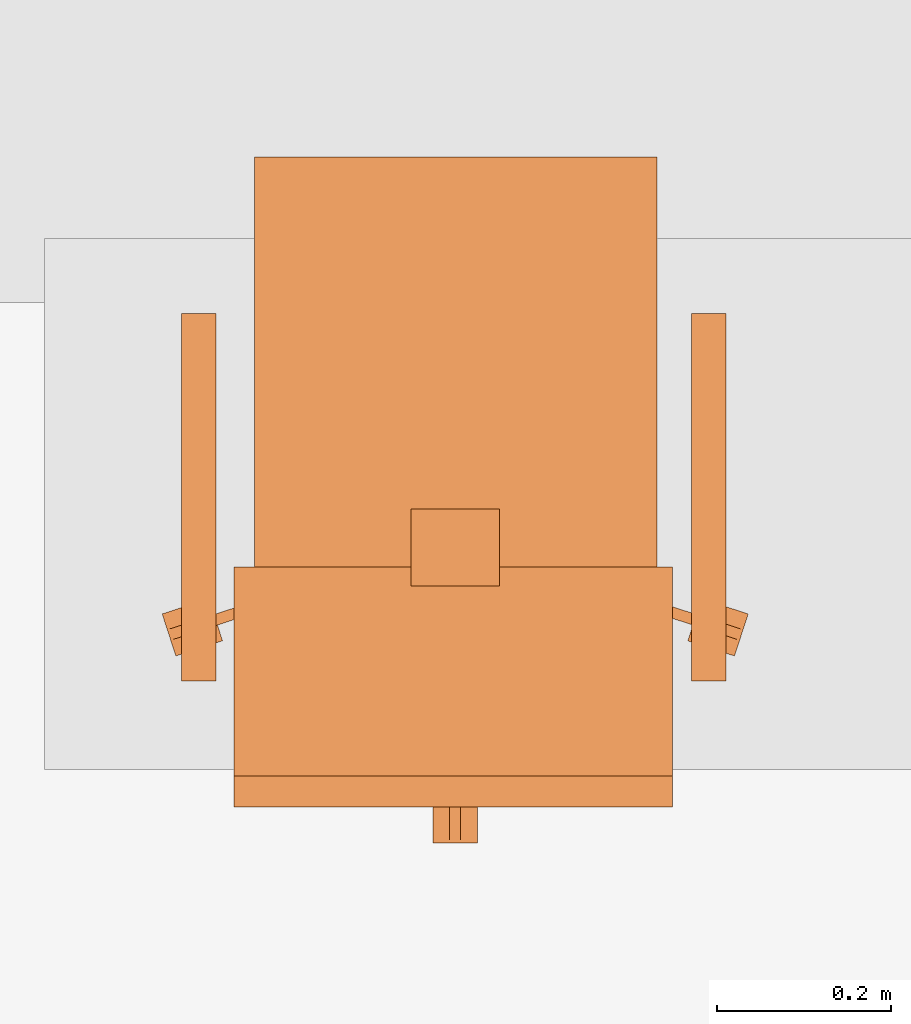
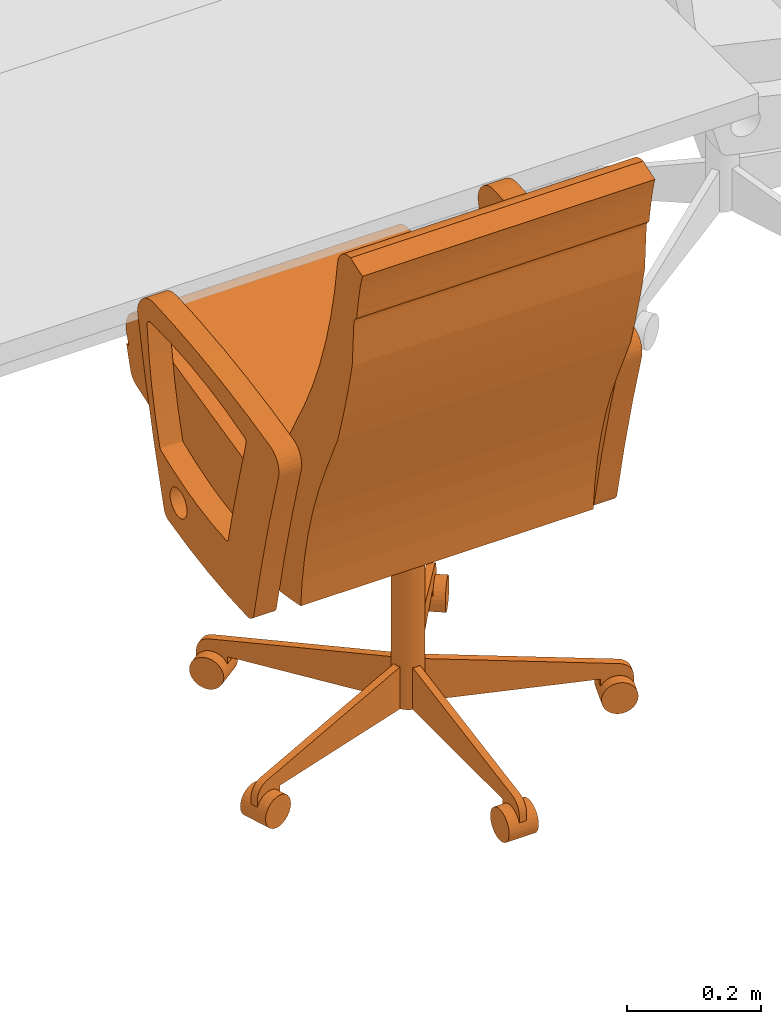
# One storey, part 37 of 142: 1 proxy.
"""IFC2X3 building model written with IfcOpenShell, lengths in feet."""

from ifc_helpers import new_model, entity, si_unit, converted_unit, derived_unit, direction, frame, frame_2d, origin, place, context, subcontext, project, spatial, polyline, circle_curve, parameter, trimmed, segment, composite_curve, circle, outline, extrude, source, transform, mapped, type_object, type_shapes, element, save


model = new_model("IFC2X3")

# Units and contexts
model_context = context("Model", 3, precision=0.0001, world=origin(), true_north=direction((6.12303176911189e-17, 1.0)))
body_context = subcontext(model_context, "Body", "Model", "MODEL_VIEW")
ifc_project = project(units=[converted_unit("LENGTHUNIT", "FOOT", entity("IfcRatioMeasure", 0.3048), si_unit("LENGTHUNIT", "METRE"), dimensions=[1, 0, 0, 0, 0, 0, 0]), converted_unit("AREAUNIT", "SQUARE FOOT", entity("IfcRatioMeasure", 0.09290304), si_unit("AREAUNIT", "SQUARE_METRE"), dimensions=[2, 0, 0, 0, 0, 0, 0]), converted_unit("VOLUMEUNIT", "CUBIC FOOT", entity("IfcRatioMeasure", 0.028316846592), si_unit("VOLUMEUNIT", "CUBIC_METRE"), dimensions=[3, 0, 0, 0, 0, 0, 0]), converted_unit("PLANEANGLEUNIT", "DEGREE", entity("IfcRatioMeasure", 0.0174532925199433), si_unit("PLANEANGLEUNIT", "RADIAN"), dimensions=[0, 0, 0, 0, 0, 0, 0]), si_unit("MASSUNIT", "GRAM", prefix="KILO"), derived_unit("MASSDENSITYUNIT", [(si_unit("MASSUNIT", "GRAM", prefix="KILO"), 1), (si_unit("LENGTHUNIT", "METRE"), -3)]), si_unit("TIMEUNIT", "SECOND"), si_unit("FREQUENCYUNIT", "HERTZ"), si_unit("THERMODYNAMICTEMPERATUREUNIT", "DEGREE_CELSIUS"), derived_unit("THERMALTRANSMITTANCEUNIT", [(si_unit("MASSUNIT", "GRAM", prefix="KILO"), 1), (si_unit("THERMODYNAMICTEMPERATUREUNIT", "KELVIN"), -1), (si_unit("TIMEUNIT", "SECOND"), -3)]), derived_unit("VOLUMETRICFLOWRATEUNIT", [(si_unit("LENGTHUNIT", "METRE"), 3), (si_unit("TIMEUNIT", "SECOND"), -1)]), si_unit("ELECTRICCURRENTUNIT", "AMPERE"), si_unit("ELECTRICVOLTAGEUNIT", "VOLT"), si_unit("POWERUNIT", "WATT"), si_unit("FORCEUNIT", "NEWTON"), si_unit("ILLUMINANCEUNIT", "LUX"), si_unit("LUMINOUSFLUXUNIT", "LUMEN"), si_unit("LUMINOUSINTENSITYUNIT", "CANDELA"), derived_unit("USERDEFINED", [(si_unit("MASSUNIT", "GRAM", prefix="KILO"), -1), (si_unit("LENGTHUNIT", "METRE"), -2), (si_unit("TIMEUNIT", "SECOND"), 3), (si_unit("LUMINOUSFLUXUNIT", "LUMEN"), 1)]), derived_unit("LINEARVELOCITYUNIT", [(si_unit("LENGTHUNIT", "METRE"), 1), (si_unit("TIMEUNIT", "SECOND"), -1)]), si_unit("PRESSUREUNIT", "PASCAL"), derived_unit("USERDEFINED", [(si_unit("LENGTHUNIT", "METRE"), -2), (si_unit("MASSUNIT", "GRAM", prefix="KILO"), 1), (si_unit("TIMEUNIT", "SECOND"), -2)])], contexts=[model_context])

# Site, building, storey, space
site_placement = place(None, origin())
site = spatial("IfcSite", under=ifc_project, at=site_placement, Name="Default", CompositionType="ELEMENT")
building_placement = place(site_placement, origin())
building = spatial("IfcBuilding", under=site, at=building_placement, Name="OUTPATIENT / PACT CLINIC (Ch. 265)", CompositionType="ELEMENT")
storey_placement = place(building_placement, origin())
storey = spatial("IfcBuildingStorey", under=building, at=storey_placement, Name="LEVEL 1", CompositionType="ELEMENT", Elevation=0.0)
space_placement = place(storey_placement, origin())
space = spatial("IfcSpace", under=storey, at=space_placement, Name="WRTM1", CompositionType="ELEMENT", InteriorOrExteriorSpace="INTERNAL")

# Proxy
building_element_proxy_type = type_object("IfcBuildingElementProxyType", Name="F0220 - Chair, Conference", PredefinedType="NOTDEFINED")
shared_shape = source(origin(), body_context, "Body", "SweptSolid", [
    extrude(outline(composite_curve([segment(trimmed(circle_curve(frame_2d((-0.548378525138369, -0.54006253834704), x_axis=(1.0, 0.0)), 0.156713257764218), [parameter(187.136710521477)], [parameter(273.006994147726)], True, "PARAMETER"), True, "CONTINUOUS"), segment(trimmed(circle_curve(frame_2d((-0.866637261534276, 5.51852508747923), x_axis=(1.0, 0.0)), 6.22365422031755), [parameter(273.006994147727)], [parameter(283.63517906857)], True, "PARAMETER"), True, "CONTINUOUS"), segment(trimmed(circle_curve(frame_2d((0.575436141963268, -0.426318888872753), x_axis=(1.0, 0.0)), 0.106404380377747), [parameter(283.63517906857)], [parameter(16.3648209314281)], True, "PARAMETER"), True, "CONTINUOUS"), segment(trimmed(circle_curve(frame_2d((12.2871693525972, 3.01281927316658), x_axis=(1.0, 0.0)), 12.0998385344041), [parameter(191.635179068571)], [parameter(196.364820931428)], True, "PARAMETER"), False, "CONTINUOUS"), segment(trimmed(circle_curve(frame_2d((0.374732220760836, 0.559015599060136), x_axis=(1.0, 0.0)), 0.0627049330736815), [parameter(12.4480385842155)], [parameter(91.6711811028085)], True, "PARAMETER"), True, "CONTINUOUS"), segment(trimmed(circle_curve(frame_2d((0.478250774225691, -2.98907031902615), x_axis=(1.0, 0.0)), 3.61230065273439), [parameter(91.6711811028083)], [parameter(104.057744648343)], True, "PARAMETER"), True, "CONTINUOUS"), segment(trimmed(circle_curve(frame_2d((-0.383994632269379, 0.454418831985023), x_axis=(1.0, 0.0)), 0.0625), [parameter(104.057744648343)], [parameter(162.816884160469)], True, "PARAMETER"), True, "CONTINUOUS"), segment(trimmed(circle_curve(frame_2d((9.14984606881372, -2.49371945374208), x_axis=(1.0, 0.0)), 10.0417603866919), [parameter(162.816884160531)], [parameter(168.894605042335)], True, "PARAMETER"), True, "CONTINUOUS")], self_intersect=False), holes=[composite_curve([segment(trimmed(circle_curve(frame_2d((12.2923776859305, 3.01281927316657), x_axis=(1.0, 0.0)), 12.4123385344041), [parameter(192.741870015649)], [parameter(195.991286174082)], True, "PARAMETER"), True, "CONTINUOUS"), segment(trimmed(circle_curve(frame_2d((0.340324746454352, -0.412409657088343), x_axis=(1.0, 0.0)), 0.0208333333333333), [parameter(286.604073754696)], [parameter(15.9912861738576)], True, "PARAMETER"), False, "CONTINUOUS"), segment(trimmed(circle_curve(frame_2d((-0.540439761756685, 2.54128905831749), x_axis=(1.0, 0.0)), 3.1030536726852), [parameter(269.369775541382)], [parameter(286.604073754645)], True, "PARAMETER"), False, "CONTINUOUS"), segment(trimmed(circle_curve(frame_2d((-0.574176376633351, -0.525693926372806), x_axis=(1.0, 0.0)), 0.0358851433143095), [parameter(161.887842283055)], [parameter(269.369775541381)], True, "PARAMETER"), False, "CONTINUOUS"), segment(trimmed(circle_curve(frame_2d((2.4385579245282, -0.768421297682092), x_axis=(1.0, 0.0)), 3.05740066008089), [parameter(162.893812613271)], [parameter(175.236734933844)], True, "PARAMETER"), False, "CONTINUOUS"), segment(trimmed(circle_curve(frame_2d((-0.469775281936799, 0.128159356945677), x_axis=(1.0, 0.0)), 0.0140798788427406), [parameter(113.070266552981)], [parameter(168.803309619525)], True, "PARAMETER"), False, "CONTINUOUS"), segment(trimmed(circle_curve(frame_2d((0.277251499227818, -1.62574197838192), x_axis=(1.0, 0.0)), 1.92044262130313), [parameter(93.3759131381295)], [parameter(113.070266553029)], True, "PARAMETER"), False, "CONTINUOUS"), segment(trimmed(circle_curve(frame_2d((0.165389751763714, 0.270570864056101), x_axis=(1.0, 0.0)), 0.0208333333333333), [parameter(12.7418700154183)], [parameter(93.375913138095)], True, "PARAMETER"), False, "CONTINUOUS")], self_intersect=False), composite_curve([segment(trimmed(circle_curve(frame_2d((-0.300575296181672, 0.351220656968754), x_axis=(1.0, 0.0)), 0.0833333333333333), [parameter(180.0)], [parameter(0.0)], True, "PARAMETER"), False, "CONTINUOUS"), segment(trimmed(circle_curve(frame_2d((-0.300575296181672, 0.351220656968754), x_axis=(1.0, 0.0)), 0.0833333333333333), [parameter(3.05333249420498e-13)], [parameter(180.0)], True, "PARAMETER"), False, "CONTINUOUS")], self_intersect=False)]), frame((-1.03331274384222, -0.0541567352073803, 1.78474215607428), z_axis=(1.0, 0.0, 0.0), x_axis=(0.0, -1.0, 0.0)), (0.0, 0.0, 1.0), 0.128812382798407),
    extrude(outline(composite_curve([segment(trimmed(circle_curve(frame_2d((-0.548378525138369, -0.54006253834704), x_axis=(1.0, 0.0)), 0.156713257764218), [parameter(187.136710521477)], [parameter(273.006994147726)], True, "PARAMETER"), True, "CONTINUOUS"), segment(trimmed(circle_curve(frame_2d((-0.866637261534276, 5.51852508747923), x_axis=(1.0, 0.0)), 6.22365422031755), [parameter(273.006994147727)], [parameter(283.63517906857)], True, "PARAMETER"), True, "CONTINUOUS"), segment(trimmed(circle_curve(frame_2d((0.575436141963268, -0.426318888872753), x_axis=(1.0, 0.0)), 0.106404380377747), [parameter(283.63517906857)], [parameter(16.3648209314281)], True, "PARAMETER"), True, "CONTINUOUS"), segment(trimmed(circle_curve(frame_2d((12.2871693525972, 3.01281927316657), x_axis=(1.0, 0.0)), 12.0998385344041), [parameter(191.635179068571)], [parameter(196.364820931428)], True, "PARAMETER"), False, "CONTINUOUS"), segment(trimmed(circle_curve(frame_2d((0.374732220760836, 0.559015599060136), x_axis=(1.0, 0.0)), 0.0627049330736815), [parameter(12.4480385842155)], [parameter(91.6711811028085)], True, "PARAMETER"), True, "CONTINUOUS"), segment(trimmed(circle_curve(frame_2d((0.478250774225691, -2.98907031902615), x_axis=(1.0, 0.0)), 3.61230065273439), [parameter(91.6711811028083)], [parameter(104.057744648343)], True, "PARAMETER"), True, "CONTINUOUS"), segment(trimmed(circle_curve(frame_2d((-0.383994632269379, 0.454418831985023), x_axis=(1.0, 0.0)), 0.0625), [parameter(104.057744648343)], [parameter(162.816884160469)], True, "PARAMETER"), True, "CONTINUOUS"), segment(trimmed(circle_curve(frame_2d((9.14984606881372, -2.49371945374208), x_axis=(1.0, 0.0)), 10.0417603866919), [parameter(162.816884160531)], [parameter(168.894605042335)], True, "PARAMETER"), True, "CONTINUOUS")], self_intersect=False), holes=[composite_curve([segment(trimmed(circle_curve(frame_2d((12.2923776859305, 3.01281927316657), x_axis=(1.0, 0.0)), 12.4123385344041), [parameter(192.741870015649)], [parameter(195.991286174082)], True, "PARAMETER"), True, "CONTINUOUS"), segment(trimmed(circle_curve(frame_2d((0.340324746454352, -0.412409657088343), x_axis=(1.0, 0.0)), 0.0208333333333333), [parameter(286.604073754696)], [parameter(15.9912861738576)], True, "PARAMETER"), False, "CONTINUOUS"), segment(trimmed(circle_curve(frame_2d((-0.540439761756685, 2.54128905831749), x_axis=(1.0, 0.0)), 3.1030536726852), [parameter(269.369775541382)], [parameter(286.604073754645)], True, "PARAMETER"), False, "CONTINUOUS"), segment(trimmed(circle_curve(frame_2d((-0.574176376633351, -0.525693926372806), x_axis=(1.0, 0.0)), 0.0358851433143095), [parameter(161.887842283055)], [parameter(269.369775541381)], True, "PARAMETER"), False, "CONTINUOUS"), segment(trimmed(circle_curve(frame_2d((2.4385579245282, -0.768421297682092), x_axis=(1.0, 0.0)), 3.05740066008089), [parameter(162.893812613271)], [parameter(175.236734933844)], True, "PARAMETER"), False, "CONTINUOUS"), segment(trimmed(circle_curve(frame_2d((-0.469775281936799, 0.128159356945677), x_axis=(1.0, 0.0)), 0.0140798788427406), [parameter(113.070266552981)], [parameter(168.803309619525)], True, "PARAMETER"), False, "CONTINUOUS"), segment(trimmed(circle_curve(frame_2d((0.277251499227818, -1.62574197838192), x_axis=(1.0, 0.0)), 1.92044262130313), [parameter(93.3759131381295)], [parameter(113.070266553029)], True, "PARAMETER"), False, "CONTINUOUS"), segment(trimmed(circle_curve(frame_2d((0.165389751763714, 0.270570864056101), x_axis=(1.0, 0.0)), 0.0208333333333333), [parameter(12.7418700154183)], [parameter(93.375913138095)], True, "PARAMETER"), False, "CONTINUOUS")], self_intersect=False), composite_curve([segment(trimmed(circle_curve(frame_2d((-0.300575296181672, 0.351220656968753), x_axis=(1.0, 0.0)), 0.0833333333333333), [parameter(180.0)], [parameter(0.0)], True, "PARAMETER"), False, "CONTINUOUS"), segment(trimmed(circle_curve(frame_2d((-0.300575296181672, 0.351220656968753), x_axis=(1.0, 0.0)), 0.0833333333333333), [parameter(3.05333249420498e-13)], [parameter(180.0)], True, "PARAMETER"), False, "CONTINUOUS")], self_intersect=False)]), frame((0.889516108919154, -0.0541567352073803, 1.78474215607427), z_axis=(1.0, 0.0, 0.0), x_axis=(0.0, -1.0, 0.0)), (0.0, 0.0, 1.0), 0.128812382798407),
    extrude(outline(composite_curve([segment(trimmed(circle_curve(frame_2d((0.770862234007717, -1.97589519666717), x_axis=(1.0, 0.0)), 2.24250574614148), [parameter(83.7744840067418)], [parameter(104.587152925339)], True, "PARAMETER"), True, "CONTINUOUS"), segment(trimmed(circle_curve(frame_2d((2.30952075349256, -7.88833070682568), x_axis=(1.0, 0.0)), 8.35187262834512), [parameter(104.587152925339)], [parameter(109.615059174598)], True, "PARAMETER"), True, "CONTINUOUS"), segment(trimmed(circle_curve(frame_2d((-0.466775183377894, -0.0980657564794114), x_axis=(1.0, 0.0)), 0.0816823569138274), [parameter(109.6150591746)], [parameter(157.671413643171)], True, "PARAMETER"), True, "CONTINUOUS"), segment(trimmed(circle_curve(frame_2d((0.971574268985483, -0.5925380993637), x_axis=(1.0, 0.0)), 1.60252010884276), [parameter(160.857176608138)], [parameter(166.076927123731)], True, "PARAMETER"), True, "CONTINUOUS"), segment(trimmed(circle_curve(frame_2d((-0.579633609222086, -0.207989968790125), x_axis=(1.0, 0.0)), 0.00435768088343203), [parameter(166.076927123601)], [parameter(280.378705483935)], True, "PARAMETER"), True, "CONTINUOUS"), segment(trimmed(circle_curve(frame_2d((16.5125965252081, -93.5315619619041), x_axis=(1.0, 0.0)), 94.871526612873), [parameter(99.4235676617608)], [parameter(100.378705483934)], True, "PARAMETER"), False, "CONTINUOUS"), segment(trimmed(circle_curve(frame_2d((1.87003600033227, -0.000965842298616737), x_axis=(1.0, 0.0)), 0.89298195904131), [parameter(163.451060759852)], [parameter(176.106880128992)], True, "PARAMETER"), False, "CONTINUOUS")], self_intersect=False)), frame((-0.758282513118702, 0.647436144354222, 1.48104866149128), z_axis=(1.0, 0.0, 0.0), x_axis=(0.0, -1.0, 0.0)), (0.0, 0.0, 1.0), 1.51656502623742),
    extrude(outline(composite_curve([segment(trimmed(circle_curve(frame_2d((16.4660541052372, -93.3276059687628), x_axis=(1.0, 0.0)), 94.871526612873), [parameter(99.4253791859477)], [parameter(100.368473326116)], True, "PARAMETER"), True, "CONTINUOUS"), segment(polyline([(-0.608725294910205, -0.00526957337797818), (-0.631085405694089, -0.0702080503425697)]), True, "CONTINUOUS"), segment(trimmed(circle_curve(frame_2d((-0.507608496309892, -0.112724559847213), x_axis=(1.0, 0.0)), 0.130591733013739), [parameter(161.000000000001)], [parameter(282.525711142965)], True, "PARAMETER"), True, "CONTINUOUS"), segment(polyline([(-0.479286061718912, -0.240208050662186), (0.789483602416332, 0.0525572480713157)]), True, "CONTINUOUS"), segment(trimmed(circle_curve(frame_2d((0.748071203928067, 0.23202795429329), x_axis=(1.0, 0.0)), 0.184186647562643), [parameter(282.993429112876)], [parameter(9.72113802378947)], True, "PARAMETER"), True, "CONTINUOUS")], self_intersect=False)), frame((-0.758282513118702, 0.600893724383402, 1.6850046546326), z_axis=(1.0, 0.0, 0.0), x_axis=(0.0, -1.0, 0.0)), (0.0, 0.0, 1.0), 1.51656502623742),
    extrude(outline(composite_curve([segment(trimmed(circle_curve(frame_2d((0.782331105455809, -5.68137094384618), x_axis=(-0.420119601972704, 0.907468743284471)), 5.89579235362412), [parameter(342.407441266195)], [parameter(347.674731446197)], True, "PARAMETER"), True, "CONTINUOUS"), segment(polyline([(-0.495446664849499, 0.0742916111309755), (-0.742416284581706, -0.0223565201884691)]), True, "CONTINUOUS"), segment(trimmed(circle_curve(frame_2d((-0.761539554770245, 0.0265100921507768), x_axis=(-0.420119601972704, 0.907468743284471)), 0.0524751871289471), [parameter(121.399025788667)], [parameter(176.530061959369)], True, "PARAMETER"), False, "CONTINUOUS"), segment(trimmed(circle_curve(frame_2d((-0.772508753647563, -0.152384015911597), x_axis=(-0.420119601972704, 0.907468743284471)), 0.136484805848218), [parameter(342.817239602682)], [parameter(358.256726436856)], True, "PARAMETER"), True, "CONTINUOUS"), segment(polyline([(-0.82605432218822, -0.0268412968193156), (-0.939530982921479, -0.0580534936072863)]), True, "CONTINUOUS"), segment(trimmed(circle_curve(frame_2d((-1.17061269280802, 0.782079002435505), x_axis=(-0.420119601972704, 0.907468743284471)), 0.871333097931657), [parameter(161.216169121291)], [parameter(170.536983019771)], True, "PARAMETER"), False, "CONTINUOUS"), segment(trimmed(circle_curve(frame_2d((-1.8181528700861, -0.2248215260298), x_axis=(-0.420119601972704, 0.907468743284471)), 0.752717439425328), [parameter(246.521848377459)], [parameter(255.910489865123)], True, "PARAMETER"), False, "CONTINUOUS"), segment(trimmed(circle_curve(frame_2d((-0.949337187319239, -0.155867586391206), x_axis=(-0.420119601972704, 0.907468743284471)), 0.127016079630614), [parameter(88.8492703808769)], [parameter(173.15072961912)], True, "PARAMETER"), True, "CONTINUOUS"), segment(trimmed(circle_curve(frame_2d((0.0257178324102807, -3.15804982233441), x_axis=(-0.420119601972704, 0.907468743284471)), 3.02953749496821), [parameter(328.849270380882)], [parameter(353.150729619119)], True, "PARAMETER"), False, "CONTINUOUS"), segment(trimmed(circle_curve(frame_2d((0.483690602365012, 0.984520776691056), x_axis=(-0.420119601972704, 0.907468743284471)), 1.13827130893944), [parameter(148.849270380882)], [parameter(180.0)], True, "PARAMETER"), True, "CONTINUOUS"), segment(trimmed(circle_curve(frame_2d((1.07518053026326, -0.33138149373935), x_axis=(-0.420119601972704, 0.907468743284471)), 0.304789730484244), [parameter(317.298982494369)], [parameter(356.976233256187)], True, "PARAMETER"), False, "CONTINUOUS"), segment(trimmed(circle_curve(frame_2d((1.31918409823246, -0.14741320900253), x_axis=(-0.420119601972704, 0.907468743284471)), 0.184186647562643), [parameter(355.215711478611)], [parameter(29.9715875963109)], True, "PARAMETER"), False, "CONTINUOUS"), segment(trimmed(circle_curve(frame_2d((0.841027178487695, 0.816299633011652), x_axis=(-0.420119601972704, 0.907468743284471)), 0.89298195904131), [parameter(182.849969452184)], [parameter(196.548939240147)], True, "PARAMETER"), True, "CONTINUOUS"), segment(trimmed(circle_curve(frame_2d((-0.48937503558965, -1.01087273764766), x_axis=(-0.420119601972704, 0.907468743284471)), 2.24250574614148), [parameter(276.225515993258)], [parameter(282.457471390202)], True, "PARAMETER"), True, "CONTINUOUS"), segment(trimmed(circle_curve(frame_2d((0.339089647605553, 2.78255473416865), x_axis=(-0.420119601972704, 0.907468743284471)), 2.61526502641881), [parameter(155.15786130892)], [parameter(176.584898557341)], True, "PARAMETER"), False, "CONTINUOUS"), segment(polyline([(0.339089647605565, 0.167289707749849), (0.0383310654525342, 0.167289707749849)]), True, "CONTINUOUS")], self_intersect=False)), frame((-0.836149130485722, -0.835165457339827, 2.58816385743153), z_axis=(-1.0, 0.0, 0.0), x_axis=(0.0, 0.420119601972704, -0.907468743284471)), (0.0, 0.0, -1.0), 1.65266976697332),
    extrude(circle(Radius=0.0833333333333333, at=frame_2d((0.0, -1.11022302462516e-16), x_axis=(1.0, 0.0))), frame((-0.00206593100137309, -0.212136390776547, 0.173534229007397)), (0.0, 0.0, 1.0), 1.0846174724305),
    extrude(circle(Radius=0.0925205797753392, at=frame_2d((0.0, -1.52655665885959e-16), x_axis=(1.0, 0.0))), frame((0.962866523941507, -0.613283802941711, 0.0902008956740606), z_axis=(0.309016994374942, 0.951056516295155, 0.0), x_axis=(0.951056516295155, -0.309016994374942, 0.0)), (0.0, 0.0, 1.0), 0.166666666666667),
    extrude(outline(composite_curve([segment(polyline([(-0.29506616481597, -0.0510253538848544), (0.663267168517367, -0.0510253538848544)]), True, "CONTINUOUS"), segment(polyline([(0.663267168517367, -0.0510253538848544), (0.663267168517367, 0.198974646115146)]), True, "CONTINUOUS"), segment(polyline([(0.663267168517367, 0.198974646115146), (0.579933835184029, 0.198974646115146)]), True, "CONTINUOUS"), segment(polyline([(0.579933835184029, 0.198974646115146), (-0.392870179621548, 0.027443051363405)]), True, "CONTINUOUS"), segment(trimmed(circle_curve(frame_2d((-0.378399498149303, -0.0546242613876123), x_axis=(-1.0, 0.0)), 0.0833333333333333), [parameter(280.0)], [parameter(0.0)], True, "PARAMETER"), True, "CONTINUOUS"), segment(polyline([(-0.461732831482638, -0.0546242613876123), (-0.461732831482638, -0.134358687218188)]), True, "CONTINUOUS"), segment(polyline([(-0.461732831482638, -0.134358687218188), (-0.29506616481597, -0.134358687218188)]), True, "CONTINUOUS"), segment(polyline([(-0.29506616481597, -0.134358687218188), (-0.29506616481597, -0.0510253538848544)]), True, "CONTINUOUS")], self_intersect=False)), frame((0.62230077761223, -0.436910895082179, 0.224559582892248), z_axis=(0.309016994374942, 0.951056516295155, 0.0), x_axis=(-0.951056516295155, 0.309016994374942, 0.0)), (0.0, 0.0, 1.0), 0.0416666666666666),
    extrude(circle(Radius=0.0925205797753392, at=frame_2d((0.0, -1.52655665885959e-16), x_axis=(1.0, 0.0))), frame((0.677628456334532, 0.581607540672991, 0.0902008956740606), z_axis=(-0.80901699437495, 0.58778525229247, 0.0), x_axis=(0.58778525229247, 0.80901699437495, 0.0)), (0.0, 0.0, 1.0), 0.166666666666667),
    extrude(outline(composite_curve([segment(polyline([(0.051025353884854, 0.295066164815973), (0.134358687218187, 0.295066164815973)]), True, "CONTINUOUS"), segment(polyline([(0.134358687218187, 0.295066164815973), (0.134358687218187, 0.461732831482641)]), True, "CONTINUOUS"), segment(polyline([(0.134358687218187, 0.461732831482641), (0.0546242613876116, 0.461732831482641)]), True, "CONTINUOUS"), segment(trimmed(circle_curve(frame_2d((0.0546242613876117, 0.378399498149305), x_axis=(0.0, 1.0)), 0.0833333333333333), [parameter(0.0)], [parameter(79.9999999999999)], True, "PARAMETER"), True, "CONTINUOUS"), segment(polyline([(-0.0274430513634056, 0.392870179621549), (-0.198974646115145, -0.579933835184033)]), True, "CONTINUOUS"), segment(polyline([(-0.198974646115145, -0.579933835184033), (-0.198974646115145, -0.66326716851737)]), True, "CONTINUOUS"), segment(polyline([(-0.198974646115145, -0.66326716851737), (0.0510253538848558, -0.66326716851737)]), True, "CONTINUOUS"), segment(polyline([(0.0510253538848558, -0.66326716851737), (0.051025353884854, 0.295066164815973)]), True, "CONTINUOUS")], self_intersect=False)), frame((0.370938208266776, 0.336703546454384, 0.224559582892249), z_axis=(0.80901699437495, -0.58778525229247, 0.0), x_axis=(0.0, 0.0, -1.0)), (0.0, 0.0, 1.0), 0.0416666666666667),
    extrude(circle(Radius=0.0925205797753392, at=frame_2d((0.0, -1.52655665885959e-16), x_axis=(1.0, 0.0))), frame((-0.681760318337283, 0.581607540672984, 0.0902008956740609), z_axis=(0.809016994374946, 0.587785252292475, 0.0), x_axis=(-0.587785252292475, 0.809016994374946, 0.0)), (0.0, 0.0, 1.0), 0.166666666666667),
    extrude(outline(composite_curve([segment(polyline([(0.0510253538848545, 0.29506616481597), (0.134358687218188, 0.29506616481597)]), True, "CONTINUOUS"), segment(polyline([(0.134358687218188, 0.29506616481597), (0.134358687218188, 0.461732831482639)]), True, "CONTINUOUS"), segment(polyline([(0.134358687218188, 0.461732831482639), (0.0546242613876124, 0.461732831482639)]), True, "CONTINUOUS"), segment(trimmed(circle_curve(frame_2d((0.0546242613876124, 0.378399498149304), x_axis=(0.0, 1.0)), 0.0833333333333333), [parameter(0.0)], [parameter(79.9999999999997)], True, "PARAMETER"), True, "CONTINUOUS"), segment(polyline([(-0.0274430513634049, 0.392870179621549), (-0.198974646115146, -0.57993383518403)]), True, "CONTINUOUS"), segment(polyline([(-0.198974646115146, -0.57993383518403), (-0.198974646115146, -0.663267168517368)]), True, "CONTINUOUS"), segment(polyline([(-0.198974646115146, -0.663267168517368), (0.0510253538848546, -0.663267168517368)]), True, "CONTINUOUS"), segment(polyline([(0.0510253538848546, -0.663267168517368), (0.0510253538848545, 0.29506616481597)]), True, "CONTINUOUS")], self_intersect=False)), frame((-0.408779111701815, 0.312212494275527, 0.224559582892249), z_axis=(0.809016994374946, 0.587785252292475, 0.0), x_axis=(0.0, 0.0, -1.0)), (0.0, 0.0, 1.0), 0.0416666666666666),
    extrude(circle(Radius=0.0925205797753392, at=frame_2d((0.0, -1.52655665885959e-16), x_axis=(1.0, 0.0))), frame((-0.966998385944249, -0.613283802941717, 0.0902008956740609), z_axis=(-0.309016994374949, 0.951056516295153, 0.0), x_axis=(-0.951056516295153, -0.309016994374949, 0.0)), (0.0, 0.0, 1.0), 0.166666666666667),
    extrude(outline(composite_curve([segment(polyline([(0.0510253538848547, 0.29506616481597), (0.134358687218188, 0.29506616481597)]), True, "CONTINUOUS"), segment(polyline([(0.134358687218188, 0.29506616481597), (0.134358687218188, 0.461732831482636)]), True, "CONTINUOUS"), segment(polyline([(0.134358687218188, 0.461732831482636), (0.0546242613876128, 0.461732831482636)]), True, "CONTINUOUS"), segment(trimmed(circle_curve(frame_2d((0.0546242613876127, 0.378399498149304), x_axis=(0.0, 1.0)), 0.0833333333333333), [parameter(0.0)], [parameter(79.9999999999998)], True, "PARAMETER"), True, "CONTINUOUS"), segment(polyline([(-0.0274430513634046, 0.392870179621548), (-0.198974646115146, -0.579933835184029)]), True, "CONTINUOUS"), segment(polyline([(-0.198974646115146, -0.579933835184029), (-0.198974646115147, -0.663267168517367)]), True, "CONTINUOUS"), segment(polyline([(-0.198974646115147, -0.663267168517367), (0.0510253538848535, -0.663267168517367)]), True, "CONTINUOUS"), segment(polyline([(0.0510253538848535, -0.663267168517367), (0.0510253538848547, 0.29506616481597)]), True, "CONTINUOUS")], self_intersect=False)), frame((-0.626432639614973, -0.436910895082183, 0.224559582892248), z_axis=(-0.309016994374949, 0.951056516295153, 0.0), x_axis=(0.0, 0.0, -1.0)), (0.0, 0.0, 1.0), 0.0416666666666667),
    extrude(circle(Radius=0.0925205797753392, at=frame_2d((9.00566595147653e-34, -1.52655665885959e-16), x_axis=(1.0, 0.0))), frame((-0.0853992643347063, -1.25380305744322, 0.0902008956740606), z_axis=(1.0, 0.0, 0.0), x_axis=(0.0, -1.0, 0.0)), (0.0, 0.0, 1.0), 0.166666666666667),
    extrude(outline(composite_curve([segment(polyline([(-0.29506616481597, -0.0510253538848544), (0.663267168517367, -0.0510253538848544)]), True, "CONTINUOUS"), segment(polyline([(0.663267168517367, -0.0510253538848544), (0.663267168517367, 0.198974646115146)]), True, "CONTINUOUS"), segment(polyline([(0.663267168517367, 0.198974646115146), (0.579933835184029, 0.198974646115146)]), True, "CONTINUOUS"), segment(polyline([(0.579933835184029, 0.198974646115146), (-0.392870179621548, 0.027443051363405)]), True, "CONTINUOUS"), segment(trimmed(circle_curve(frame_2d((-0.378399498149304, -0.0546242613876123), x_axis=(-1.0, 0.0)), 0.0833333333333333), [parameter(280.0)], [parameter(0.0)], True, "PARAMETER"), True, "CONTINUOUS"), segment(polyline([(-0.461732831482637, -0.0546242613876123), (-0.461732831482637, -0.134358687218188)]), True, "CONTINUOUS"), segment(polyline([(-0.461732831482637, -0.134358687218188), (-0.29506616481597, -0.134358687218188)]), True, "CONTINUOUS"), segment(polyline([(-0.29506616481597, -0.134358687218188), (-0.29506616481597, -0.0510253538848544)]), True, "CONTINUOUS")], self_intersect=False)), frame((-0.0228992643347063, -0.875403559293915, 0.224559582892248), z_axis=(1.0, 0.0, 0.0), x_axis=(0.0, 1.0, 0.0)), (0.0, 0.0, 1.0), 0.0416666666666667),
    extrude(outline(polyline([(-0.140470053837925, -0.149999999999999), (-0.0988033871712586, -0.149999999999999), (0.189871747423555, 0.0166666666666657), (0.189871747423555, 0.141666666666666), (-0.140470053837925, 0.141666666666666), (-0.140470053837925, -0.149999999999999)])), frame((-0.168732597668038, -0.228803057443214, 1.57571509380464), z_axis=(1.0, 0.0, 0.0), x_axis=(0.0, 0.0, -1.0)), (0.0, 0.0, 1.0), 0.333333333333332),
])
type_shapes(building_element_proxy_type, [shared_shape])
proxy_placement = place(space_placement, frame((424.908440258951, -901.163975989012, 0.0)))
element("IfcBuildingElementProxy", 1, at=proxy_placement, inside=space, type_object=building_element_proxy_type, Name="F0220 - Chair, Conference:F0220 - Chair, Conference", ObjectType="F0220 - Chair, Conference", context=body_context, shape_type="MappedRepresentation", body=[
    mapped(shared_shape, transform((0.0, 0.0, 0.0), scale=1.0)),
])

save(model, "model.ifc")
